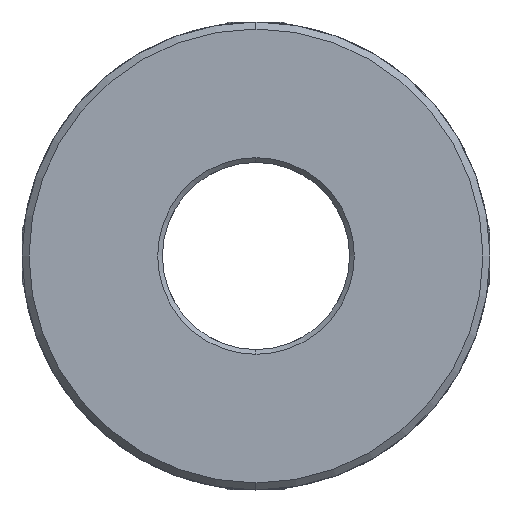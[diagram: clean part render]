
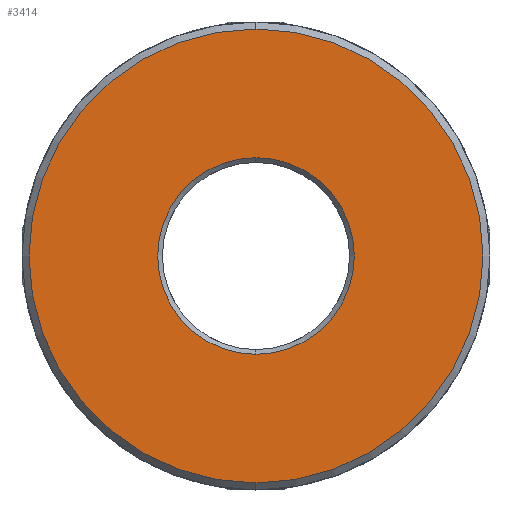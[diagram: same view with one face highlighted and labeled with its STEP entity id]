
A CAD part, front view. The second image highlights one B-rep face of the part: STEP entity #3414.
In plain terms, the highlighted planar face has unit normal (0, -1, 0).
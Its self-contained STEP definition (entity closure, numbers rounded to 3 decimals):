
#441 = AXIS2_PLACEMENT_3D ( 'NONE', #5997, #5391, #4793 ) ;
#735 = AXIS2_PLACEMENT_3D ( 'NONE', #1671, #3424, #7615 ) ;
#972 = VERTEX_POINT ( 'NONE', #6839 ) ;
#1578 = CIRCLE ( 'NONE', #5885, 19.4 ) ;
#1671 = CARTESIAN_POINT ( 'NONE',  ( 0., 0., 0. ) ) ;
#1788 = VERTEX_POINT ( 'NONE', #4249 ) ;
#1869 = EDGE_CURVE ( 'NONE', #7053, #972, #1578, .T. ) ;
#1914 = ORIENTED_EDGE ( 'NONE', *, *, #1869, .T. ) ;
#2054 = CIRCLE ( 'NONE', #3326, 8.4 ) ;
#2356 = CARTESIAN_POINT ( 'NONE',  ( 0., 0., -19.4 ) ) ;
#2422 = CIRCLE ( 'NONE', #2524, 19.4 ) ;
#2524 = AXIS2_PLACEMENT_3D ( 'NONE', #5295, #4187, #7092 ) ;
#2631 = DIRECTION ( 'NONE',  ( 0., 1., 0. ) ) ;
#2766 = ORIENTED_EDGE ( 'NONE', *, *, #4354, .T. ) ;
#3081 = CARTESIAN_POINT ( 'NONE',  ( 0., 0., 8.4 ) ) ;
#3326 = AXIS2_PLACEMENT_3D ( 'NONE', #4437, #2631, #5043 ) ;
#3414 = ADVANCED_FACE ( 'NONE', ( #3540, #4387 ), #4251, .F. ) ;
#3424 = DIRECTION ( 'NONE',  ( 0., 1., 0. ) ) ;
#3540 = FACE_BOUND ( 'NONE', #7356, .T. ) ;
#3646 = ORIENTED_EDGE ( 'NONE', *, *, #4585, .T. ) ;
#4187 = DIRECTION ( 'NONE',  ( 0., -1., 0. ) ) ;
#4249 = CARTESIAN_POINT ( 'NONE',  ( 0., 0., -8.4 ) ) ;
#4251 = PLANE ( 'NONE',  #441 ) ;
#4354 = EDGE_CURVE ( 'NONE', #1788, #5922, #6837, .T. ) ;
#4387 = FACE_OUTER_BOUND ( 'NONE', #7032, .T. ) ;
#4437 = CARTESIAN_POINT ( 'NONE',  ( 0., 0., 0. ) ) ;
#4585 = EDGE_CURVE ( 'NONE', #972, #7053, #2422, .T. ) ;
#4706 = EDGE_CURVE ( 'NONE', #5922, #1788, #2054, .T. ) ;
#4793 = DIRECTION ( 'NONE',  ( 0., 0., 1. ) ) ;
#5043 = DIRECTION ( 'NONE',  ( 0., 0., 1. ) ) ;
#5295 = CARTESIAN_POINT ( 'NONE',  ( 0., 0., 0. ) ) ;
#5391 = DIRECTION ( 'NONE',  ( 0., 1., 0. ) ) ;
#5885 = AXIS2_PLACEMENT_3D ( 'NONE', #6777, #6810, #7320 ) ;
#5922 = VERTEX_POINT ( 'NONE', #3081 ) ;
#5997 = CARTESIAN_POINT ( 'NONE',  ( 24.74, 0., -50. ) ) ;
#6406 = ORIENTED_EDGE ( 'NONE', *, *, #4706, .T. ) ;
#6777 = CARTESIAN_POINT ( 'NONE',  ( 0., 0., 0. ) ) ;
#6810 = DIRECTION ( 'NONE',  ( 0., -1., 0. ) ) ;
#6837 = CIRCLE ( 'NONE', #735, 8.4 ) ;
#6839 = CARTESIAN_POINT ( 'NONE',  ( 0., 0., 19.4 ) ) ;
#7032 = EDGE_LOOP ( 'NONE', ( #3646, #1914 ) ) ;
#7053 = VERTEX_POINT ( 'NONE', #2356 ) ;
#7092 = DIRECTION ( 'NONE',  ( 0., 0., 1. ) ) ;
#7320 = DIRECTION ( 'NONE',  ( 0., 0., 1. ) ) ;
#7356 = EDGE_LOOP ( 'NONE', ( #2766, #6406 ) ) ;
#7615 = DIRECTION ( 'NONE',  ( 0., 0., 1. ) ) ;
